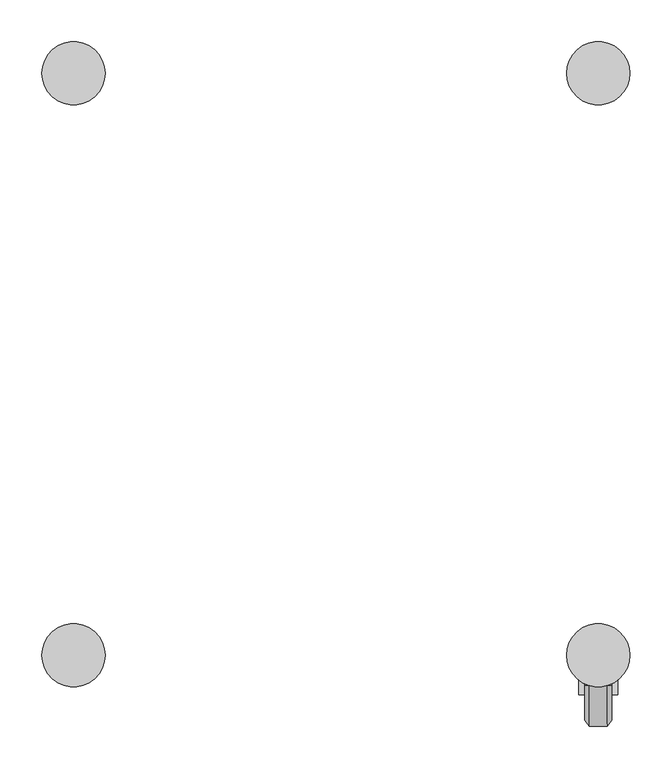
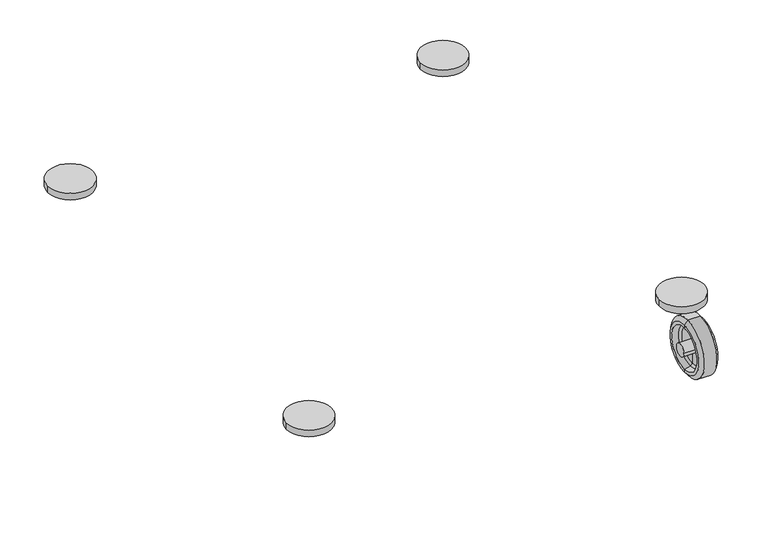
"""IFC4 building model written with IfcOpenShell, lengths in millimetres: proxy geometry, 12290890_D_APDR024 : 59520024_D_12290890_APDR024."""

from ifc_helpers import new_model, si_unit, point, frame, frame_2d, origin, place, context, project, spatial, polyline, circle_curve, trimmed, segment, composite_curve, outline, extrude, source, transform, mapped, element, save
from ifc_brep_helpers import plane_surface, cylinder_surface, revolved_surface, advanced_brep


def specialty_equipment_e0a4a35a(model_context):
    return source(origin(), model_context, "Body", "SolidModel", [
        advanced_brep(
        [(336.0364395, -1038.5204408, 48.7198946), (336.0364395, -1016.920221, 48.7198946), (289.9642929, -1038.5204408, 48.7198946), (289.9642929, -1016.920221, 48.7198946), (315.5003662, -1038.5204408, 48.7198946), (315.5003662, -1027.7203309, 37.9197847), (315.5003662, -1016.920221, 48.7198946), (310.5038522, -1016.920221, 48.7198946), (310.5038522, -1027.7203309, 37.9197847), (310.5038522, -1038.5204408, 48.7198946), (315.5003662, -1027.7203309, 59.5200044), (310.5038522, -1027.7203309, 59.5200044), (319.3935864, -1027.7203309, 14.2563123), (319.3935864, -1027.7203309, 83.160787), (315.5003662, -1027.7203309, 79.2675668), (315.5003662, -1027.7203309, 18.1495325), (329.0003662, -1027.7203309, 6.7783739), (329.0003662, -1027.7203309, 90.6387254), (329.0003662, -1027.7203309, 85.5349781), (329.0003662, -1027.7203309, 11.8821212), (323.6582031, -1027.7203309, -0.0224636), (323.6582031, -1027.7203309, 97.439563), (302.3460153, -1027.7203309, -0.0224636), (302.3460153, -1027.7203309, 97.439563), (297.0038522, -1027.7203309, 6.7783739), (297.0038522, -1027.7203309, 90.6387254), (297.0038522, -1027.7203309, 11.8821212), (297.0038522, -1027.7203309, 85.5349781), (310.5038522, -1027.7203309, 79.2675668), (310.5038522, -1027.7203309, 18.1495325), (306.6106321, -1027.7203309, 14.2563123), (306.6106321, -1027.7203309, 83.160787)],
        [
            (0, 1, circle_curve(frame((336.0364395, -1027.7203309, 48.7198946), z_axis=(1.0, 0.0, 0.0), x_axis=(0.0, 1.0, 0.0)), 10.8001099)),
            (1, 0, circle_curve(frame((336.0364395, -1027.7203309, 48.7198946), z_axis=(1.0, 0.0, 0.0), x_axis=(0.0, 1.0, 0.0)), 10.8001099)),
            (2, 3, circle_curve(frame((289.9642929, -1027.7203309, 48.7198946), z_axis=(-1.0, 0.0, 0.0), x_axis=(0.0, 1.0, 0.0)), 10.8001099)),
            (3, 2, circle_curve(frame((289.9642929, -1027.7203309, 48.7198946), z_axis=(-1.0, 0.0, 0.0), x_axis=(0.0, 1.0, 0.0)), 10.8001099)),
            (0, 4),
            (4, 5, circle_curve(frame((315.5003662, -1027.7203309, 48.7198946), z_axis=(1.0, 0.0, 0.0), x_axis=(0.0, 1.0, 0.0)), 10.8001099)),
            (5, 6, circle_curve(frame((315.5003662, -1027.7203309, 48.7198946), z_axis=(1.0, 0.0, 0.0), x_axis=(0.0, 1.0, 0.0)), 10.8001099)),
            (6, 1),
            (3, 7),
            (7, 8, circle_curve(frame((310.5038522, -1027.7203309, 48.7198946), z_axis=(-1.0, 0.0, 0.0), x_axis=(0.0, 1.0, 0.0)), 10.8001099)),
            (8, 9, circle_curve(frame((310.5038522, -1027.7203309, 48.7198946), z_axis=(-1.0, 0.0, 0.0), x_axis=(0.0, 1.0, 0.0)), 10.8001099)),
            (9, 2),
            (6, 10, circle_curve(frame((315.5003662, -1027.7203309, 48.7198946), z_axis=(1.0, 0.0, 0.0), x_axis=(0.0, 1.0, 0.0)), 10.8001099)),
            (10, 4, circle_curve(frame((315.5003662, -1027.7203309, 48.7198946), z_axis=(1.0, 0.0, 0.0), x_axis=(0.0, 1.0, 0.0)), 10.8001099)),
            (9, 11, circle_curve(frame((310.5038522, -1027.7203309, 48.7198946), z_axis=(-1.0, 0.0, 0.0), x_axis=(0.0, 1.0, 0.0)), 10.8001099)),
            (11, 7, circle_curve(frame((310.5038522, -1027.7203309, 48.7198946), z_axis=(-1.0, 0.0, 0.0), x_axis=(0.0, 1.0, 0.0)), 10.8001099)),
            (12, 13, circle_curve(frame((319.3935864, -1027.7203309, 48.7085497), z_axis=(1.0, 0.0, 0.0), x_axis=(0.0, 0.0, 1.0)), 34.4522373)),
            (13, 14),
            (14, 15, circle_curve(frame((315.5003662, -1027.7203309, 48.7085497), z_axis=(-1.0, 0.0, 0.0), x_axis=(0.0, 0.0, 1.0)), 30.5590172)),
            (15, 12),
            (13, 12, circle_curve(frame((319.3935864, -1027.7203309, 48.7085497), z_axis=(1.0, 0.0, 0.0), x_axis=(0.0, 0.0, 1.0)), 34.4522373)),
            (15, 14, circle_curve(frame((315.5003662, -1027.7203309, 48.7085497), z_axis=(-1.0, 0.0, 0.0), x_axis=(0.0, 0.0, 1.0)), 30.5590172)),
            (16, 17, circle_curve(frame((329.0003662, -1027.7203309, 48.7085497), z_axis=(1.0, 0.0, 0.0), x_axis=(0.0, 0.0, 1.0)), 41.9301758)),
            (17, 18),
            (18, 19, circle_curve(frame((329.0003662, -1027.7203309, 48.7085497), z_axis=(-1.0, 0.0, 0.0), x_axis=(0.0, 0.0, 1.0)), 36.8264284)),
            (19, 16),
            (17, 16, circle_curve(frame((329.0003662, -1027.7203309, 48.7085497), z_axis=(1.0, 0.0, 0.0), x_axis=(0.0, 0.0, 1.0)), 41.9301758)),
            (19, 18, circle_curve(frame((329.0003662, -1027.7203309, 48.7085497), z_axis=(-1.0, 0.0, 0.0), x_axis=(0.0, 0.0, 1.0)), 36.8264284)),
            (16, 20),
            (20, 21, circle_curve(frame((323.6582031, -1027.7203309, 48.7085497), z_axis=(1.0, 0.0, 0.0), x_axis=(0.0, 0.0, 1.0)), 48.7310133)),
            (21, 17),
            (21, 20, circle_curve(frame((323.6582031, -1027.7203309, 48.7085497), z_axis=(1.0, 0.0, 0.0), x_axis=(0.0, 0.0, 1.0)), 48.7310133)),
            (20, 22),
            (22, 23, circle_curve(frame((302.3460153, -1027.7203309, 48.7085497), z_axis=(1.0, 0.0, 0.0), x_axis=(0.0, 0.0, 1.0)), 48.7310133)),
            (23, 21),
            (23, 22, circle_curve(frame((302.3460153, -1027.7203309, 48.7085497), z_axis=(1.0, 0.0, 0.0), x_axis=(0.0, 0.0, 1.0)), 48.7310133)),
            (22, 24),
            (24, 25, circle_curve(frame((297.0038522, -1027.7203309, 48.7085497), z_axis=(1.0, 0.0, 0.0), x_axis=(0.0, 0.0, 1.0)), 41.9301758)),
            (25, 23),
            (25, 24, circle_curve(frame((297.0038522, -1027.7203309, 48.7085497), z_axis=(1.0, 0.0, 0.0), x_axis=(0.0, 0.0, 1.0)), 41.9301758)),
            (24, 26),
            (26, 27, circle_curve(frame((297.0038522, -1027.7203309, 48.7085497), z_axis=(1.0, 0.0, 0.0), x_axis=(0.0, 0.0, 1.0)), 36.8264284)),
            (27, 25),
            (27, 26, circle_curve(frame((297.0038522, -1027.7203309, 48.7085497), z_axis=(1.0, 0.0, 0.0), x_axis=(0.0, 0.0, 1.0)), 36.8264284)),
            (28, 29, circle_curve(frame((310.5038522, -1027.7203309, 48.7085497), z_axis=(-1.0, 0.0, 0.0), x_axis=(0.0, 0.0, 1.0)), 30.5590172)),
            (29, 8),
            (11, 28),
            (29, 28, circle_curve(frame((310.5038522, -1027.7203309, 48.7085497), z_axis=(-1.0, 0.0, 0.0), x_axis=(0.0, 0.0, 1.0)), 30.5590172)),
            (14, 10),
            (5, 15),
            (12, 19),
            (18, 13),
            (26, 30),
            (30, 31, circle_curve(frame((306.6106321, -1027.7203309, 48.7085497), z_axis=(1.0, 0.0, 0.0), x_axis=(0.0, 0.0, 1.0)), 34.4522373)),
            (31, 27),
            (31, 30, circle_curve(frame((306.6106321, -1027.7203309, 48.7085497), z_axis=(1.0, 0.0, 0.0), x_axis=(0.0, 0.0, 1.0)), 34.4522373)),
            (28, 31),
            (30, 29),
        ],
        [
            plane_surface(frame((336.0364395, -1016.920221, 48.7198946), z_axis=(1.0, 0.0, 0.0), x_axis=(0.0, 0.0, 1.0))),
            plane_surface(frame((289.9642929, -1016.920221, 48.7198946), z_axis=(-1.0, 0.0, 0.0), x_axis=(0.0, 0.0, -1.0))),
            cylinder_surface(frame((289.9642929, -1027.7203309, 48.7198946), z_axis=(1.0, 0.0, 0.0), x_axis=(0.0, 1.0, 0.0)), 10.8001099),
            revolved_surface(polyline([(315.5003662, -1027.7203309, 79.2675668), (319.3935864, -1027.7203309, 83.160787)]), (291.9215088, -1027.7203309, 48.7085497), (-1.0, 0.0, 0.0)),
            plane_surface(frame((329.0003662, -1027.7203309, 48.7085497), z_axis=(1.0, 0.0, 0.0), x_axis=(0.0, 0.0, 1.0))),
            revolved_surface(polyline([(329.0003662, -1027.7203309, 90.6387254), (323.6582031, -1027.7203309, 97.439563)]), (291.9215088, -1027.7203309, 48.7085497), (-1.0, 0.0, 0.0)),
            cylinder_surface(frame((291.9215088, -1027.7203309, 48.7085497), z_axis=(-1.0, 0.0, 0.0), x_axis=(0.0, 0.0, 1.0)), 48.7310133),
            revolved_surface(polyline([(302.3460153, -1027.7203309, 97.439563), (297.0038522, -1027.7203309, 90.6387254)]), (291.9215088, -1027.7203309, 48.7085497), (-1.0, 0.0, 0.0)),
            plane_surface(frame((297.0038522, -1027.7203309, 48.7085497), z_axis=(-1.0, 0.0, 0.0), x_axis=(0.0, 0.0, 1.0))),
            plane_surface(frame((310.5038522, -1027.7203309, 48.7085497), z_axis=(-1.0, 0.0, 0.0), x_axis=(0.0, 0.0, 1.0))),
            plane_surface(frame((315.5003662, -1027.7203309, 48.7085497), z_axis=(1.0, 0.0, 0.0), x_axis=(0.0, 0.0, 1.0))),
            revolved_surface(polyline([(319.3935864, -1027.7203309, 83.160787), (329.0003662, -1027.7203309, 85.5349781)]), (291.9215088, -1027.7203309, 48.7085497), (-1.0, 0.0, 0.0)),
            revolved_surface(polyline([(297.0038522, -1027.7203309, 85.5349781), (306.6106321, -1027.7203309, 83.160787)]), (291.9215088, -1027.7203309, 48.7085497), (-1.0, 0.0, 0.0)),
            revolved_surface(polyline([(306.6106321, -1027.7203309, 83.160787), (310.5038522, -1027.7203309, 79.2675668)]), (291.9215088, -1027.7203309, 48.7085497), (-1.0, 0.0, 0.0)),
        ],
        [
            (0, [[1, 2]]),
            (1, [[3, 4]]),
            (2, [[-1, 5, 6, 7, 8]]),
            (2, [[-4, 9, 10, 11, 12]]),
            (2, [[-2, -8, 13, 14, -5]]),
            (2, [[-3, -12, 15, 16, -9]]),
            (3, [[17, 18, 19, 20]]),
            (3, [[-18, 21, -20, 22]]),
            (4, [[23, 24, 25, 26]]),
            (4, [[-24, 27, -26, 28]]),
            (5, [[-23, 29, 30, 31]]),
            (5, [[-27, -31, 32, -29]]),
            (6, [[-30, 33, 34, 35]]),
            (6, [[-32, -35, 36, -33]]),
            (7, [[-34, 37, 38, 39]]),
            (7, [[-36, -39, 40, -37]]),
            (8, [[-38, 41, 42, 43]]),
            (8, [[-40, -43, 44, -41]]),
            (9, [[45, 46, -10, -16, 47]]),
            (9, [[48, -47, -15, -11, -46]]),
            (10, [[-19, 49, -13, -7, 50]]),
            (10, [[-22, -50, -6, -14, -49]]),
            (11, [[-17, 51, -25, 52]]),
            (11, [[-21, -52, -28, -51]]),
            (12, [[-42, 53, 54, 55]]),
            (12, [[-44, -55, 56, -53]]),
            (13, [[-45, 57, -54, 58]]),
            (13, [[-48, -58, -56, -57]]),
        ],
    ),
        extrude(outline(composite_curve([segment(trimmed(circle_curve(frame_2d((313.0003662, -297.4286312)), 37.7501831), [point((350.7505493, -297.4286312))], [point((275.2501831, -297.4286312))], False, "CARTESIAN"), True, "CONTINUOUS"), segment(trimmed(circle_curve(frame_2d((313.0003662, -297.4286312)), 37.7501831), [point((275.2501831, -297.4286312))], [point((350.7505493, -297.4286312))], False, "CARTESIAN"), True, "CONTINUOUS")], self_intersect=False)), frame((0.0, 0.0, 109.7698948), z_axis=(0.0, 0.0, 1.0), x_axis=(1.0, 0.0, 0.0)), (0.0, 0.0, 1.0), 11.9499998),
        extrude(outline(composite_curve([segment(trimmed(circle_curve(frame_2d((-313.0003662, -297.4286312)), 37.7501831), [point((-350.7505493, -297.4286312))], [point((-275.2501831, -297.4286312))], False, "CARTESIAN"), True, "CONTINUOUS"), segment(trimmed(circle_curve(frame_2d((-313.0003662, -297.4286312)), 37.7501831), [point((-275.2501831, -297.4286312))], [point((-350.7505493, -297.4286312))], False, "CARTESIAN"), True, "CONTINUOUS")], self_intersect=False)), frame((0.0, 0.0, 109.7698948), z_axis=(0.0, 0.0, 1.0), x_axis=(1.0, 0.0, 0.0)), (0.0, 0.0, 1.0), 11.9499998),
        extrude(outline(composite_curve([segment(trimmed(circle_curve(frame_2d((313.0003662, -991.7118988)), 37.7501831), [point((350.7505493, -991.7118988))], [point((275.2501831, -991.7118988))], False, "CARTESIAN"), True, "CONTINUOUS"), segment(trimmed(circle_curve(frame_2d((313.0003662, -991.7118988)), 37.7501831), [point((275.2501831, -991.7118988))], [point((350.7505493, -991.7118988))], False, "CARTESIAN"), True, "CONTINUOUS")], self_intersect=False)), frame((0.0, 0.0, 109.7698948), z_axis=(0.0, 0.0, 1.0), x_axis=(1.0, 0.0, 0.0)), (0.0, 0.0, 1.0), 11.9499998),
        extrude(outline(composite_curve([segment(trimmed(circle_curve(frame_2d((-313.0003662, -991.7118988)), 37.7501831), [point((-350.7505493, -991.7118988))], [point((-275.2501831, -991.7118988))], False, "CARTESIAN"), True, "CONTINUOUS"), segment(trimmed(circle_curve(frame_2d((-313.0003662, -991.7118988)), 37.7501831), [point((-275.2501831, -991.7118988))], [point((-350.7505493, -991.7118988))], False, "CARTESIAN"), True, "CONTINUOUS")], self_intersect=False)), frame((0.0, 0.0, 109.7698948), z_axis=(0.0, 0.0, 1.0), x_axis=(1.0, 0.0, 0.0)), (0.0, 0.0, 1.0), 11.9499998),
    ])


if __name__ == "__main__":
    model = new_model("IFC4")
    model_context = context("Model", 3, world=origin())
    ifc_project = project(units=[si_unit("LENGTHUNIT", "METRE", prefix="MILLI")], contexts=[model_context])
    site = spatial("IfcSite", under=ifc_project)
    building = spatial("IfcBuilding", under=site)
    placement = place(None, origin())
    specialty_equipment_shape = specialty_equipment_e0a4a35a(model_context)
    element("IfcBuildingElementProxy", 1, Name="12290890_D_APDR024 : 59520024_D_12290890_APDR024", ObjectType="12290890_D_APDR024 : 59520024_D_12290890_APDR024", at=placement, inside=building, context=model_context, shape_type="MappedRepresentation", body=[
        mapped(specialty_equipment_shape, transform((0.0, 0.0, 0.0), x_axis=(1.0, 0.0, 0.0), y_axis=(0.0, 1.0, 0.0), z_axis=(0.0, 0.0, 1.0))),
    ])
    save(model, "model.ifc")
